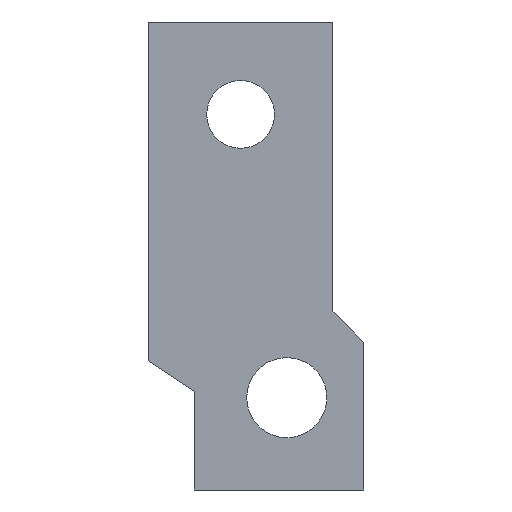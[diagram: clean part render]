
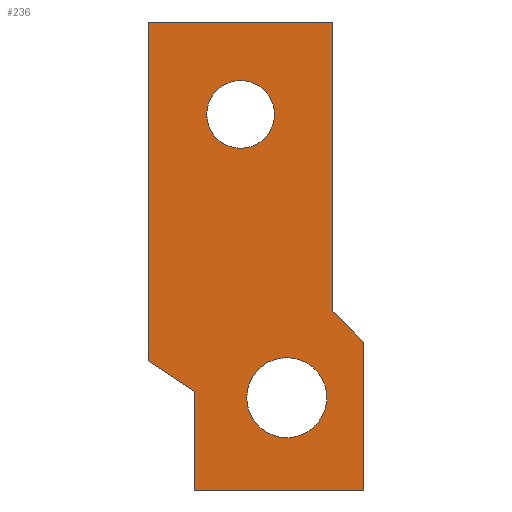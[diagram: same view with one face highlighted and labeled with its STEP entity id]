
A CAD part, front view. The second image highlights one B-rep face of the part: STEP entity #236.
In plain terms, the highlighted planar face has unit normal (0, -1, 0).
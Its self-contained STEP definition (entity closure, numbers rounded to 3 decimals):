
#1=CARTESIAN_POINT('',(0.,0.,0.));
#2=DIRECTION('',(0.,-1.,0.));
#3=DIRECTION('',(1.,0.,0.));
#4=AXIS2_PLACEMENT_3D('',#1,#2,#3);
#6=CARTESIAN_POINT('',(0.,0.,0.));
#7=DIRECTION('',(0.,-1.,0.));
#8=DIRECTION('',(-1.,0.,0.));
#9=AXIS2_PLACEMENT_3D('',#6,#7,#8);
#11=CARTESIAN_POINT('',(7.5,0.,-46.));
#12=DIRECTION('',(0.,-1.,0.));
#13=DIRECTION('',(1.,0.,0.));
#14=AXIS2_PLACEMENT_3D('',#11,#12,#13);
#16=CARTESIAN_POINT('',(7.5,0.,-46.));
#17=DIRECTION('',(0.,-1.,0.));
#18=DIRECTION('',(-1.,0.,0.));
#19=AXIS2_PLACEMENT_3D('',#16,#17,#18);
#21=DIRECTION('',(1.,0.,0.));
#22=VECTOR('',#21,30.);
#23=CARTESIAN_POINT('',(-15.,0.,15.));
#24=LINE('',#23,#22);
#25=DIRECTION('',(0.,0.,-1.));
#26=VECTOR('',#25,47.);
#27=CARTESIAN_POINT('',(15.,0.,15.));
#28=LINE('',#27,#26);
#29=DIRECTION('',(0.707,0.,-0.707));
#30=VECTOR('',#29,7.071);
#31=CARTESIAN_POINT('',(15.,0.,-32.));
#32=LINE('',#31,#30);
#33=DIRECTION('',(0.,0.,-1.));
#34=VECTOR('',#33,24.);
#35=CARTESIAN_POINT('',(20.,0.,-37.));
#36=LINE('',#35,#34);
#37=DIRECTION('',(-1.,0.,0.));
#38=VECTOR('',#37,27.5);
#39=CARTESIAN_POINT('',(20.,0.,-61.));
#40=LINE('',#39,#38);
#41=DIRECTION('',(0.,0.,1.));
#42=VECTOR('',#41,16.);
#43=CARTESIAN_POINT('',(-7.5,0.,-61.));
#44=LINE('',#43,#42);
#45=DIRECTION('',(-0.832,0.,0.555));
#46=VECTOR('',#45,9.014);
#47=CARTESIAN_POINT('',(-7.5,0.,-45.));
#48=LINE('',#47,#46);
#49=DIRECTION('',(0.,0.,1.));
#50=VECTOR('',#49,55.);
#51=CARTESIAN_POINT('',(-15.,0.,-40.));
#52=LINE('',#51,#50);
#153=CARTESIAN_POINT('',(5.5,0.,0.));
#154=CARTESIAN_POINT('',(-5.5,0.,0.));
#155=VERTEX_POINT('',#153);
#156=VERTEX_POINT('',#154);
#157=CARTESIAN_POINT('',(14.,0.,-46.));
#158=CARTESIAN_POINT('',(1.,0.,-46.));
#159=VERTEX_POINT('',#157);
#160=VERTEX_POINT('',#158);
#161=CARTESIAN_POINT('',(-15.,0.,15.));
#162=CARTESIAN_POINT('',(15.,0.,15.));
#163=VERTEX_POINT('',#161);
#164=VERTEX_POINT('',#162);
#165=CARTESIAN_POINT('',(15.,0.,-32.));
#166=VERTEX_POINT('',#165);
#167=CARTESIAN_POINT('',(20.,0.,-37.));
#168=VERTEX_POINT('',#167);
#169=CARTESIAN_POINT('',(20.,0.,-61.));
#170=VERTEX_POINT('',#169);
#171=CARTESIAN_POINT('',(-7.5,0.,-61.));
#172=VERTEX_POINT('',#171);
#173=CARTESIAN_POINT('',(-7.5,0.,-45.));
#174=VERTEX_POINT('',#173);
#175=CARTESIAN_POINT('',(-15.,0.,-40.));
#176=VERTEX_POINT('',#175);
#201=CARTESIAN_POINT('',(0.,0.,0.));
#202=DIRECTION('',(0.,1.,0.));
#203=DIRECTION('',(1.,0.,0.));
#204=AXIS2_PLACEMENT_3D('',#201,#202,#203);
#205=PLANE('',#204);
#207=ORIENTED_EDGE('',*,*,#206,.T.);
#209=ORIENTED_EDGE('',*,*,#208,.T.);
#211=ORIENTED_EDGE('',*,*,#210,.T.);
#213=ORIENTED_EDGE('',*,*,#212,.T.);
#215=ORIENTED_EDGE('',*,*,#214,.T.);
#217=ORIENTED_EDGE('',*,*,#216,.T.);
#219=ORIENTED_EDGE('',*,*,#218,.T.);
#221=ORIENTED_EDGE('',*,*,#220,.T.);
#222=EDGE_LOOP('',(#207,#209,#211,#213,#215,#217,#219,#221));
#223=FACE_OUTER_BOUND('',#222,.F.);
#225=ORIENTED_EDGE('',*,*,#224,.T.);
#227=ORIENTED_EDGE('',*,*,#226,.T.);
#228=EDGE_LOOP('',(#225,#227));
#229=FACE_BOUND('',#228,.F.);
#231=ORIENTED_EDGE('',*,*,#230,.T.);
#233=ORIENTED_EDGE('',*,*,#232,.T.);
#234=EDGE_LOOP('',(#231,#233));
#235=FACE_BOUND('',#234,.F.);
#236=ADVANCED_FACE('',(#223,#229,#235),#205,.F.);
#5=CIRCLE('',#4,5.5);
#10=CIRCLE('',#9,5.5);
#15=CIRCLE('',#14,6.5);
#20=CIRCLE('',#19,6.5);
#206=EDGE_CURVE('',#163,#164,#24,.T.);
#208=EDGE_CURVE('',#164,#166,#28,.T.);
#210=EDGE_CURVE('',#166,#168,#32,.T.);
#212=EDGE_CURVE('',#168,#170,#36,.T.);
#214=EDGE_CURVE('',#170,#172,#40,.T.);
#216=EDGE_CURVE('',#172,#174,#44,.T.);
#218=EDGE_CURVE('',#174,#176,#48,.T.);
#220=EDGE_CURVE('',#176,#163,#52,.T.);
#224=EDGE_CURVE('',#155,#156,#5,.T.);
#226=EDGE_CURVE('',#156,#155,#10,.T.);
#230=EDGE_CURVE('',#159,#160,#15,.T.);
#232=EDGE_CURVE('',#160,#159,#20,.T.);
